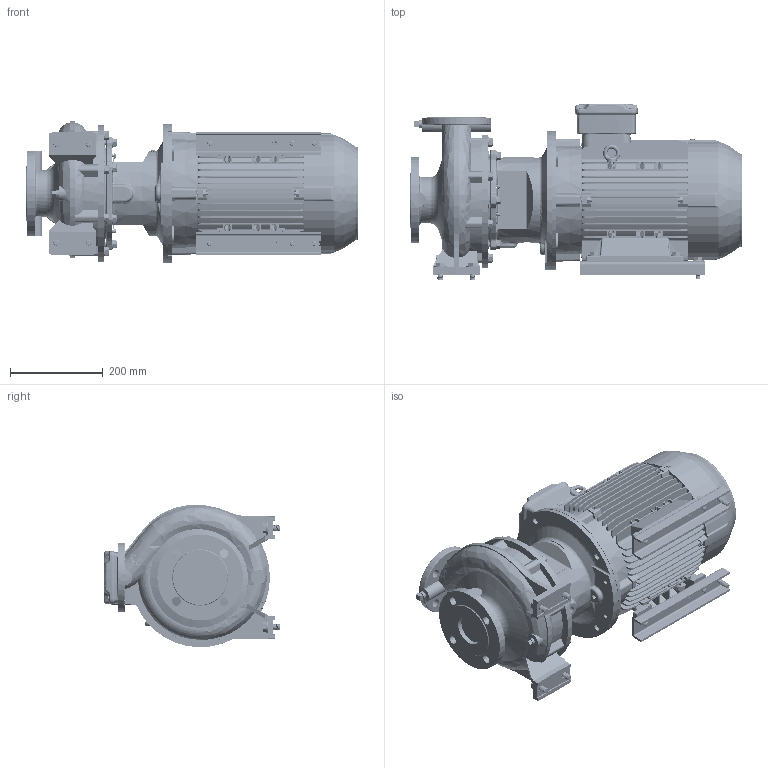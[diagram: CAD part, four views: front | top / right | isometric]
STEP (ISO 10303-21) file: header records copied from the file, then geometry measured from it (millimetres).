
FILE_DESCRIPTION (( 'STEP AP214' ), '1' );
FILE_NAME ('GSD2 40-200_9.2_(132M)_W21.STEP', '2026-07-02T05:30:10', ( '' ), ( '' ), 'SwSTEP 2.0', 'SolidWorks 2024', '' );
FILE_SCHEMA (( 'AUTOMOTIVE_DESIGN' ));
Length unit declared in the file: millimetre
Products named in the file (9): GSD2  40-200_9.2_(132M)_W21; 140_178 x 28 - 271472025; Parametric Flat Washer_M12; Parametric bolt_SFT-A299B; 132M ALIE3_W21T_B35; Parametric Flat Washer_M10; Parametric bolt_SFT-A253B; 40-200-132M; Parametric bolt_SFT-A257B
Assembly tree (24 placements, depth 2):
  GSD2  40-200_9.2_(132M)_W21
    40-200-132M
    140_178 x 28 - 271472025  x2
    Parametric bolt_SFT-A299B  x4
    Parametric bolt_SFT-A257B  x2
    Parametric bolt_SFT-A253B  x4
    Parametric Flat Washer_M10  x6
    Parametric Flat Washer_M12  x4
    132M ALIE3_W21T_B35
Bounding box: 714.8 x 380.5 x 306.53 mm (x, y, z)
Volume: 29031059.6 mm3; surface area: 1951759.7 mm2
Topology: 35 solids, 35 shells, 5227 faces, 13739 edges, 8934 vertices
Faces by surface type: plane 2997, cylinder 1352, torus 340, bspline 270, cone 236, sphere 32
Entity records: 184654 total; most frequent: CARTESIAN_POINT 68833, ORIENTED_EDGE 25130, DIRECTION 22381, EDGE_CURVE 12565, VERTEX_POINT 8186, LINE 8133, VECTOR 8133, AXIS2_PLACEMENT_3D 7124
